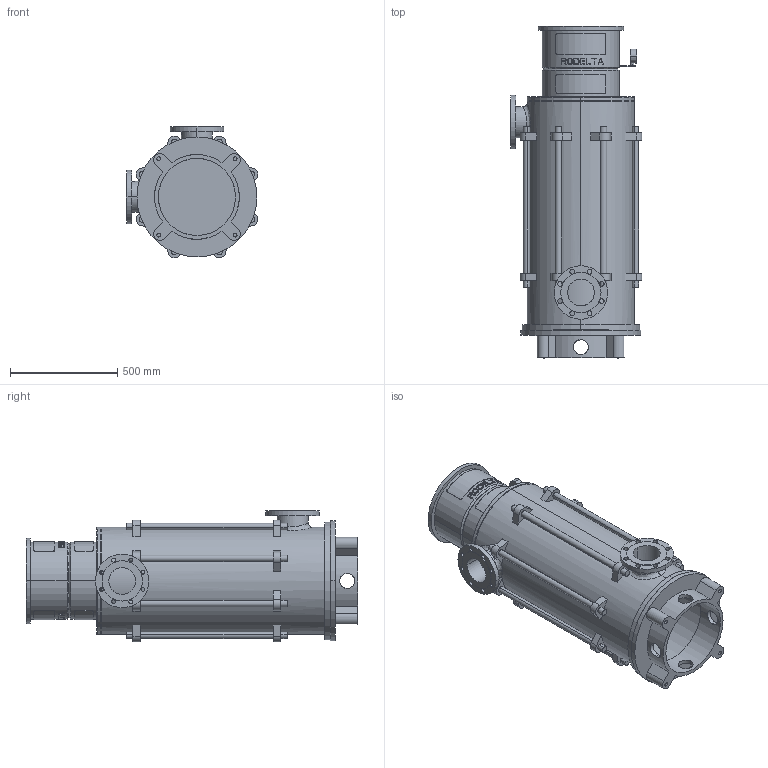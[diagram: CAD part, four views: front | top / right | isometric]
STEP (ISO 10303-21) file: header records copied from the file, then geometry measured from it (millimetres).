
FILE_DESCRIPTION((''),'2;1');
FILE_NAME('LS5_6TR_0GR_TOT_30KW','2023-08-08T',('Lyritlocal'),(''),'PRO/ENGINEER BY PARAMETRIC TECHNOLOGY CORPORATION, 2016360','PRO/ENGINEER BY PARAMETRIC TECHNOLOGY CORPORATION, 2016360','');
FILE_SCHEMA(('CONFIG_CONTROL_DESIGN'));
Length unit declared in the file: millimetre
Products named in the file (1): LS5_6TR_0GR_TOT_30KW
Bounding box: 614.04 x 1550 x 614.04 mm (x, y, z)
Volume: 42740448 mm3; surface area: 6335302.7 mm2
Topology: 3 solids, 7 shells, 672 faces, 1749 edges, 1158 vertices
Faces by surface type: plane 414, cylinder 242, cone 12, bspline 4
Entity records: 21895 total; most frequent: CARTESIAN_POINT 5443, ORIENTED_EDGE 3482, DIRECTION 3271, EDGE_CURVE 1749, AXIS2_PLACEMENT_3D 1241, VERTEX_POINT 1158, EDGE_LOOP 807, VECTOR 789
